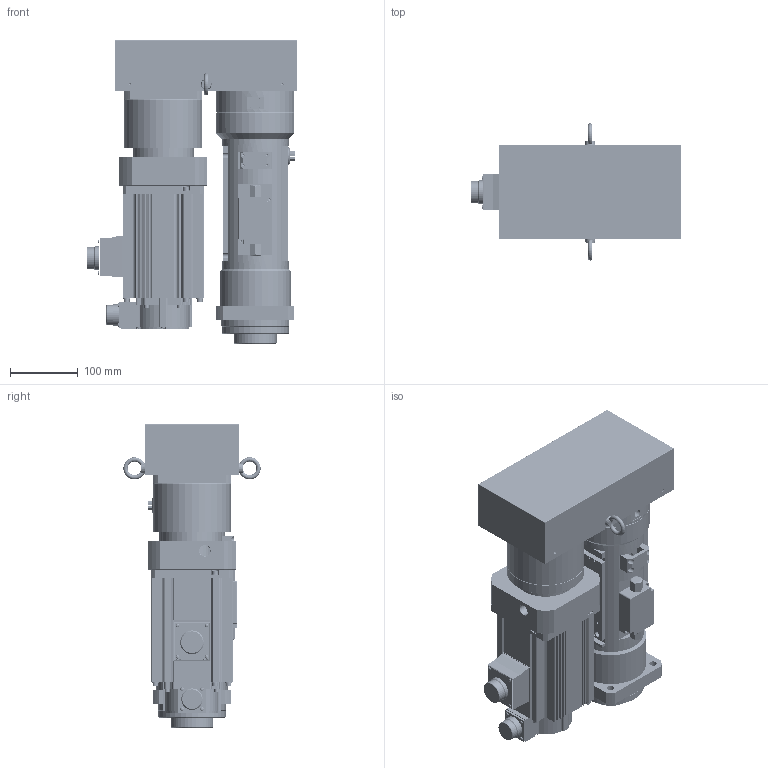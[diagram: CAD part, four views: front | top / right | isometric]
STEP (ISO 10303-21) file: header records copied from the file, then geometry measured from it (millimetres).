
FILE_DESCRIPTION( ('This file contains a STEP AP42 implementation' ,'as created by ZW3D STEP Interface translator.') ,'2;1' );
FILE_NAME( 'OACIS-DC-P025-P030-100-200-A6V200_V20.51.stp' ,'26 421.18 636', (''), ('ZWCAD Software Co.'), 'Version 1.0', 'ZW3D to STEP translator', '' );
FILE_SCHEMA(('AUTOMOTIVE_DESIGN { 1 0 10303 214 1 1 1 1 }'));
Length unit declared in the file: millimetre
Products named in the file (1): 0
Bounding box: 311 x 202.6 x 448 mm (x, y, z)
Volume: 5393130.3 mm3; surface area: 1312470.2 mm2
Topology: 50 solids, 55 shells, 3128 faces, 8019 edges, 5231 vertices
Faces by surface type: cylinder 1463, plane 1206, cone 328, torus 100, sphere 21, bspline 10
Full cylindrical faces by diameter (mm): 1.6 x8, 2.459 x5, 2.75 x4, 3.2 x5, 3.242 x10, 3.3 x68, 4 x8, 4.134 x14, 4.2 x4, 4.3 x21, 4.5 x4, 5 x36, 5.5 x4, 5.6 x5, 6.6 x14, 6.647 x4, 6.8 x42, 7 x12, 8 x29, 8.4 x8, 8.5 x35, 9 x8, 9.5 x4, 10 x8, 10.106 x1, 11 x12, 12 x1, 15 x8, 15.5 x2, 16.5 x2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
Entity records: 103467 total; most frequent: CARTESIAN_POINT 19894, DIRECTION 17889, ORIENTED_EDGE 15844, EDGE_CURVE 7930, AXIS2_PLACEMENT_3D 7086, VERTEX_POINT 5186, CIRCLE 3944, EDGE_LOOP 3723
